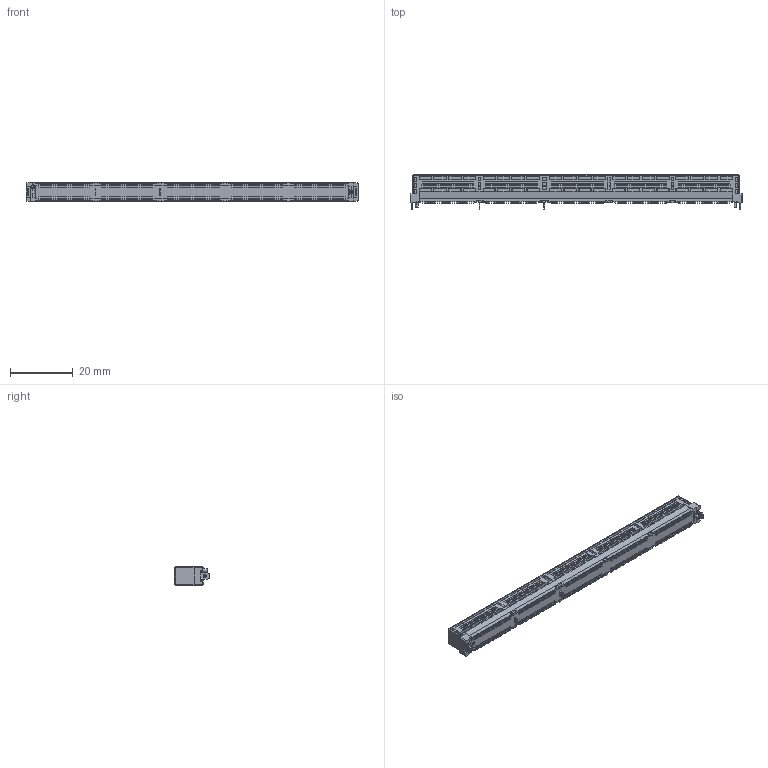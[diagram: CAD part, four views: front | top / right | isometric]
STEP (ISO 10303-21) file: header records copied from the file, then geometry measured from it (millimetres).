
FILE_DESCRIPTION((''),'2;1');
FILE_NAME('PRT0002_1_ASM','2026-07-13T10:57:09',('39002408'),(''),'CREO PARAMETRIC BY PTC INC, 2019471','CREO PARAMETRIC BY PTC INC, 2019471','');
FILE_SCHEMA(('CONFIG_CONTROL_DESIGN'));
Products named in the file (1): PRT0002_1_ASM
Bounding box: 105.89 x 10.92 x 6 mm (x, y, z)
Volume: 4007.8 mm3; surface area: 6506.4 mm2
Topology: 1 solids, 1 shells, 7765 faces, 21132 edges, 13972 vertices
Faces by surface type: plane 6504, cylinder 1194, sphere 42, bspline 18, cone 7
Entity records: 244997 total; most frequent: CARTESIAN_POINT 46869, ORIENTED_EDGE 42172, DIRECTION 38903, EDGE_CURVE 21086, VECTOR 18067, LINE 18067, VERTEX_POINT 13972, AXIS2_PLACEMENT_3D 10418
